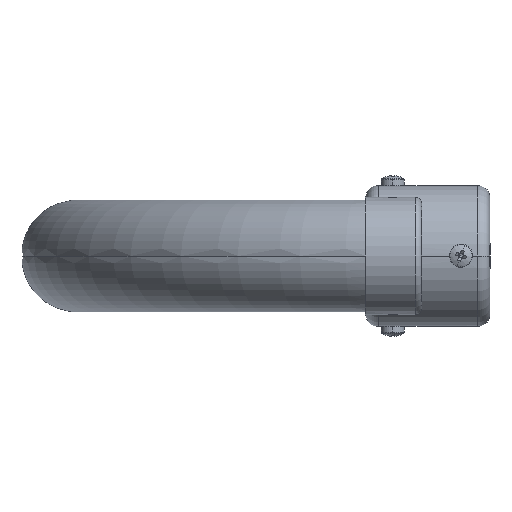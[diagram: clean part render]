
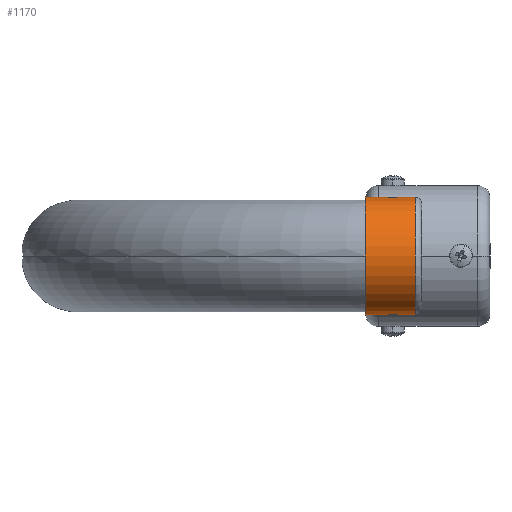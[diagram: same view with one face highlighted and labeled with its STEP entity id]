
A CAD part, left-side view. The second image highlights one B-rep face of the part: STEP entity #1170.
In plain terms, the highlighted cylindrical face has radius 14.189 mm (diameter 28.378 mm), a partial arc.
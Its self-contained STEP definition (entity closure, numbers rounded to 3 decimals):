
#300 = VERTEX_POINT ( 'NONE', #8693 ) ;
#360 = CARTESIAN_POINT ( 'NONE',  ( -81.549, 6.218, -14.154 ) ) ;
#361 = CARTESIAN_POINT ( 'NONE',  ( -81.179, 4.357, -14.176 ) ) ;
#370 = EDGE_CURVE ( 'NONE', #8825, #10051, #8869, .T. ) ;
#588 = VERTEX_POINT ( 'NONE', #7582 ) ;
#686 = CARTESIAN_POINT ( 'NONE',  ( -81.179, 6.543, 14.176 ) ) ;
#779 = CIRCLE ( 'NONE', #4499, 14.189 ) ;
#1170 = ADVANCED_FACE ( 'NONE', ( #8776 ), #8206, .T. ) ;
#1196 = VECTOR ( 'NONE', #3437, 1000. ) ;
#1382 = LINE ( 'NONE', #3062, #1196 ) ;
#1548 = CARTESIAN_POINT ( 'NONE',  ( -80.55, 12., 14.189 ) ) ;
#1589 = CARTESIAN_POINT ( 'NONE',  ( -81.768, 5.777, -14.137 ) ) ;
#1769 = CARTESIAN_POINT ( 'NONE',  ( -80.55, 12., -14.189 ) ) ;
#1827 = EDGE_CURVE ( 'NONE', #300, #7946, #8745, .T. ) ;
#1828 = CARTESIAN_POINT ( 'NONE',  ( -81.18, 6.542, -14.176 ) ) ;
#1964 = DIRECTION ( 'NONE',  ( 0., 1., 0. ) ) ;
#1971 = CARTESIAN_POINT ( 'NONE',  ( -81.8, 5.45, -14.134 ) ) ;
#2010 = DIRECTION ( 'NONE',  ( 0., 1., 0. ) ) ;
#2049 = CARTESIAN_POINT ( 'NONE',  ( -81.8, 5.615, -14.134 ) ) ;
#2207 = ORIENTED_EDGE ( 'NONE', *, *, #370, .F. ) ;
#2424 = VERTEX_POINT ( 'NONE', #3724 ) ;
#2429 = CARTESIAN_POINT ( 'NONE',  ( -80.55, 6.7, 14.189 ) ) ;
#2565 = EDGE_CURVE ( 'NONE', #7859, #300, #6264, .T. ) ;
#2814 = AXIS2_PLACEMENT_3D ( 'NONE', #6590, #6642, #6479 ) ;
#2917 = CARTESIAN_POINT ( 'NONE',  ( -80.55, 12., -14.189 ) ) ;
#3062 = CARTESIAN_POINT ( 'NONE',  ( -80.55, 12., 14.189 ) ) ;
#3079 = CARTESIAN_POINT ( 'NONE',  ( -80.55, 4.2, -14.189 ) ) ;
#3162 = CARTESIAN_POINT ( 'NONE',  ( -81.549, 4.681, -14.154 ) ) ;
#3248 = CARTESIAN_POINT ( 'NONE',  ( -81.8, 5.285, -14.134 ) ) ;
#3271 = CARTESIAN_POINT ( 'NONE',  ( -80.879, 6.667, -14.186 ) ) ;
#3437 = DIRECTION ( 'NONE',  ( 0., 1., 0. ) ) ;
#3448 = CARTESIAN_POINT ( 'NONE',  ( -80.55, 12., 14.189 ) ) ;
#3724 = CARTESIAN_POINT ( 'NONE',  ( -80.55, 4.2, 14.189 ) ) ;
#3819 = ORIENTED_EDGE ( 'NONE', *, *, #6036, .F. ) ;
#3828 = CARTESIAN_POINT ( 'NONE',  ( -80.55, 0., 14.189 ) ) ;
#3885 = DIRECTION ( 'NONE',  ( 0., 1., 0. ) ) ;
#3975 = CARTESIAN_POINT ( 'NONE',  ( -81.8, 5.615, 14.134 ) ) ;
#3976 = EDGE_CURVE ( 'NONE', #4868, #2424, #7094, .T. ) ;
#4036 = CARTESIAN_POINT ( 'NONE',  ( -80.55, 12., -14.189 ) ) ;
#4123 = CARTESIAN_POINT ( 'NONE',  ( -80.878, 4.233, -14.186 ) ) ;
#4206 = CARTESIAN_POINT ( 'NONE',  ( -80.55, 4.2, 14.189 ) ) ;
#4234 = CARTESIAN_POINT ( 'NONE',  ( -80.715, 4.2, 14.189 ) ) ;
#4269 = CARTESIAN_POINT ( 'NONE',  ( -80.879, 4.233, 14.186 ) ) ;
#4305 = CARTESIAN_POINT ( 'NONE',  ( -81.18, 4.358, 14.176 ) ) ;
#4371 = CARTESIAN_POINT ( 'NONE',  ( -81.319, 4.451, 14.169 ) ) ;
#4406 = CARTESIAN_POINT ( 'NONE',  ( -81.549, 4.682, 14.154 ) ) ;
#4448 = CARTESIAN_POINT ( 'NONE',  ( -81.642, 4.82, 14.147 ) ) ;
#4485 = CARTESIAN_POINT ( 'NONE',  ( -81.768, 5.123, 14.137 ) ) ;
#4499 = AXIS2_PLACEMENT_3D ( 'NONE', #9482, #9448, #9394 ) ;
#4648 = EDGE_CURVE ( 'NONE', #588, #4868, #6510, .T. ) ;
#4768 = CARTESIAN_POINT ( 'NONE',  ( -81.642, 6.08, 14.147 ) ) ;
#4868 = VERTEX_POINT ( 'NONE', #3828 ) ;
#4892 = CARTESIAN_POINT ( 'NONE',  ( -81.8, 5.285, 14.134 ) ) ;
#4957 = VECTOR ( 'NONE', #3885, 1000. ) ;
#4976 = LINE ( 'NONE', #4036, #4957 ) ;
#5155 = VECTOR ( 'NONE', #2010, 1000. ) ;
#5157 = B_SPLINE_CURVE_WITH_KNOTS ( 'NONE', 3,
 ( #5616, #4892, #4485, #4448, #4406, #4371, #4305, #4269, #4234, #4206 ),
 .UNSPECIFIED., .F., .F.,
 ( 4, 2, 2, 2, 4 ),
 ( 0.006, 0.006, 0.007, 0.007, 0.008 ),
 .UNSPECIFIED. ) ;
#5185 = LINE ( 'NONE', #1769, #5155 ) ;
#5528 = CARTESIAN_POINT ( 'NONE',  ( -81.318, 6.449, 14.169 ) ) ;
#5604 = AXIS2_PLACEMENT_3D ( 'NONE', #7600, #7479, #7476 ) ;
#5616 = CARTESIAN_POINT ( 'NONE',  ( -81.8, 5.45, 14.134 ) ) ;
#5757 = EDGE_CURVE ( 'NONE', #588, #7859, #5185, .T. ) ;
#5944 = CARTESIAN_POINT ( 'NONE',  ( -80.55, 6.7, -14.189 ) ) ;
#6036 = EDGE_CURVE ( 'NONE', #7946, #9538, #4976, .T. ) ;
#6051 = CARTESIAN_POINT ( 'NONE',  ( -80.55, 4.2, -14.189 ) ) ;
#6264 = B_SPLINE_CURVE_WITH_KNOTS ( 'NONE', 3,
 ( #3079, #9540, #4123, #361, #6748, #3162, #6368, #8653, #3248, #8504 ),
 .UNSPECIFIED., .F., .F.,
 ( 4, 2, 2, 2, 4 ),
 ( 0.004, 0.004, 0.005, 0.005, 0.006 ),
 .UNSPECIFIED. ) ;
#6310 = CARTESIAN_POINT ( 'NONE',  ( -80.878, 6.667, 14.186 ) ) ;
#6368 = CARTESIAN_POINT ( 'NONE',  ( -81.642, 4.82, -14.147 ) ) ;
#6479 = DIRECTION ( 'NONE',  ( 0., 0., 1. ) ) ;
#6485 = EDGE_CURVE ( 'NONE', #10051, #2424, #5157, .T. ) ;
#6510 = CIRCLE ( 'NONE', #5604, 14.189 ) ;
#6590 = CARTESIAN_POINT ( 'NONE',  ( -80.55, 12., 0. ) ) ;
#6642 = DIRECTION ( 'NONE',  ( 0., 1., 0. ) ) ;
#6658 = CARTESIAN_POINT ( 'NONE',  ( -81.319, 6.449, -14.169 ) ) ;
#6748 = CARTESIAN_POINT ( 'NONE',  ( -81.318, 4.451, -14.169 ) ) ;
#7082 = VECTOR ( 'NONE', #1964, 1000. ) ;
#7094 = LINE ( 'NONE', #3448, #7082 ) ;
#7476 = DIRECTION ( 'NONE',  ( 0., 0., 1. ) ) ;
#7479 = DIRECTION ( 'NONE',  ( 0., 1., 0. ) ) ;
#7483 = CARTESIAN_POINT ( 'NONE',  ( -80.715, 6.7, -14.189 ) ) ;
#7582 = CARTESIAN_POINT ( 'NONE',  ( -80.55, 0., -14.189 ) ) ;
#7600 = CARTESIAN_POINT ( 'NONE',  ( -80.55, 0., 0. ) ) ;
#7745 = ORIENTED_EDGE ( 'NONE', *, *, #5757, .F. ) ;
#7767 = ORIENTED_EDGE ( 'NONE', *, *, #4648, .T. ) ;
#7779 = ORIENTED_EDGE ( 'NONE', *, *, #3976, .T. ) ;
#7787 = ORIENTED_EDGE ( 'NONE', *, *, #6485, .F. ) ;
#7794 = ORIENTED_EDGE ( 'NONE', *, *, #9994, .F. ) ;
#7802 = ORIENTED_EDGE ( 'NONE', *, *, #1827, .F. ) ;
#7859 = VERTEX_POINT ( 'NONE', #6051 ) ;
#7871 = CARTESIAN_POINT ( 'NONE',  ( -80.713, 6.7, 14.189 ) ) ;
#7888 = ORIENTED_EDGE ( 'NONE', *, *, #2565, .F. ) ;
#7946 = VERTEX_POINT ( 'NONE', #5944 ) ;
#7979 = CARTESIAN_POINT ( 'NONE',  ( -81.642, 6.08, -14.147 ) ) ;
#8206 = CYLINDRICAL_SURFACE ( 'NONE', #2814, 14.189 ) ;
#8447 = ORIENTED_EDGE ( 'NONE', *, *, #9503, .T. ) ;
#8504 = CARTESIAN_POINT ( 'NONE',  ( -81.8, 5.45, -14.134 ) ) ;
#8653 = CARTESIAN_POINT ( 'NONE',  ( -81.767, 5.122, -14.137 ) ) ;
#8670 = CARTESIAN_POINT ( 'NONE',  ( -81.8, 5.45, 14.134 ) ) ;
#8693 = CARTESIAN_POINT ( 'NONE',  ( -81.8, 5.45, -14.134 ) ) ;
#8745 = B_SPLINE_CURVE_WITH_KNOTS ( 'NONE', 3,
 ( #1971, #2049, #1589, #7979, #360, #6658, #1828, #3271, #7483, #9981 ),
 .UNSPECIFIED., .F., .F.,
 ( 4, 2, 2, 2, 4 ),
 ( 0.006, 0.006, 0.007, 0.007, 0.008 ),
 .UNSPECIFIED. ) ;
#8776 = FACE_OUTER_BOUND ( 'NONE', #8834, .T. ) ;
#8825 = VERTEX_POINT ( 'NONE', #9980 ) ;
#8834 = EDGE_LOOP ( 'NONE', ( #7745, #7767, #7779, #7787, #2207, #8447, #7794, #3819, #7802, #7888 ) ) ;
#8869 = B_SPLINE_CURVE_WITH_KNOTS ( 'NONE', 3,
 ( #2429, #7871, #6310, #686, #5528, #10192, #4768, #9472, #3975, #8670 ),
 .UNSPECIFIED., .F., .F.,
 ( 4, 2, 2, 2, 4 ),
 ( 0.004, 0.004, 0.005, 0.005, 0.006 ),
 .UNSPECIFIED. ) ;
#8879 = CARTESIAN_POINT ( 'NONE',  ( -81.8, 5.45, 14.134 ) ) ;
#9394 = DIRECTION ( 'NONE',  ( 0., 0., 1. ) ) ;
#9448 = DIRECTION ( 'NONE',  ( 0., 1., 0. ) ) ;
#9472 = CARTESIAN_POINT ( 'NONE',  ( -81.767, 5.778, 14.137 ) ) ;
#9482 = CARTESIAN_POINT ( 'NONE',  ( -80.55, 12., 0. ) ) ;
#9503 = EDGE_CURVE ( 'NONE', #8825, #9919, #1382, .T. ) ;
#9538 = VERTEX_POINT ( 'NONE', #2917 ) ;
#9540 = CARTESIAN_POINT ( 'NONE',  ( -80.713, 4.2, -14.189 ) ) ;
#9919 = VERTEX_POINT ( 'NONE', #1548 ) ;
#9980 = CARTESIAN_POINT ( 'NONE',  ( -80.55, 6.7, 14.189 ) ) ;
#9981 = CARTESIAN_POINT ( 'NONE',  ( -80.55, 6.7, -14.189 ) ) ;
#9994 = EDGE_CURVE ( 'NONE', #9538, #9919, #779, .T. ) ;
#10051 = VERTEX_POINT ( 'NONE', #8879 ) ;
#10192 = CARTESIAN_POINT ( 'NONE',  ( -81.549, 6.219, 14.154 ) ) ;
